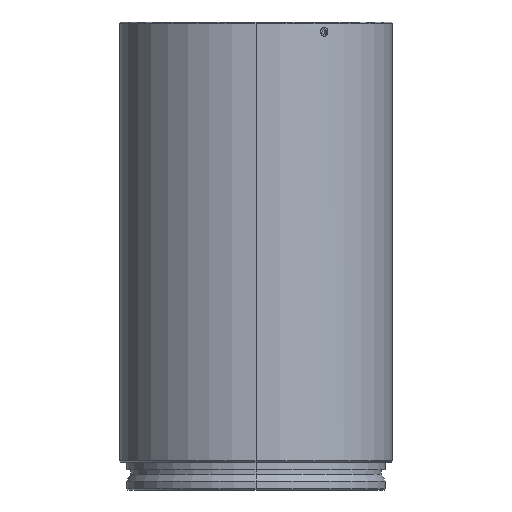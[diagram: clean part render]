
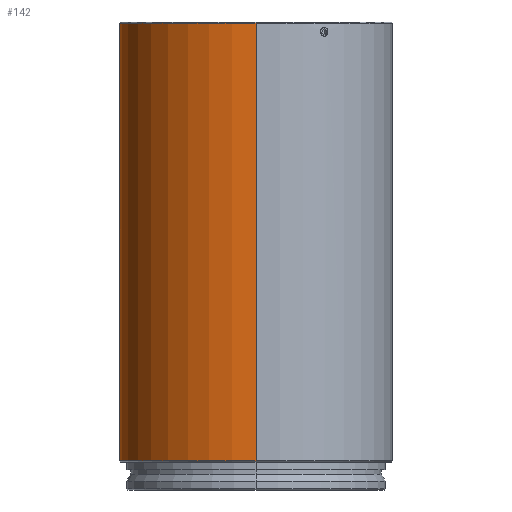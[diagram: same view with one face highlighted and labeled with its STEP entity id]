
A CAD part, left-side view. The second image highlights one B-rep face of the part: STEP entity #142.
In plain terms, the highlighted cylindrical face has radius 39 mm (diameter 78 mm), a partial arc.
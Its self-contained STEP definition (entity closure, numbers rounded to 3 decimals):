
#15 = CARTESIAN_POINT ( 'NONE',  ( 82.203, 123.256, 129.449 ) ) ;
#109 = CARTESIAN_POINT ( 'NONE',  ( 43.972, 84.263, 141.857 ) ) ;
#142 = ADVANCED_FACE ( 'NONE', ( #651, #883 ), #1323, .T. ) ;
#194 = CARTESIAN_POINT ( 'NONE',  ( 81.973, 123.251, 129.218 ) ) ;
#220 = CARTESIAN_POINT ( 'NONE',  ( 82.972, 123.263, 129.7 ) ) ;
#237 = EDGE_CURVE ( 'NONE', #2160, #407, #1378, .T. ) ;
#275 = CARTESIAN_POINT ( 'NONE',  ( 84.222, 123.243, 128.614 ) ) ;
#307 = EDGE_CURVE ( 'NONE', #1666, #1091, #2066, .T. ) ;
#373 = VECTOR ( 'NONE', #546, 1000. ) ;
#396 = CARTESIAN_POINT ( 'NONE',  ( 81.88, 123.248, 129.079 ) ) ;
#397 = ORIENTED_EDGE ( 'NONE', *, *, #790, .T. ) ;
#401 = B_SPLINE_CURVE_WITH_KNOTS ( 'NONE', 3,
 ( #1090, #1341, #872, #1728, #1928, #2330, #1299, #695, #2353, #275, #2158, #2342, #1914, #2539, #1514, #513, #1329, #1118, #2509, #1941 ),
 .UNSPECIFIED., .F., .F.,
 ( 4, 2, 2, 2, 2, 2, 2, 2, 2, 4 ),
 ( 0.004, 0.004, 0.005, 0.005, 0.006, 0.006, 0.007, 0.007, 0.007, 0.008 ),
 .UNSPECIFIED. ) ;
#402 = EDGE_LOOP ( 'NONE', ( #923, #1918, #2142, #476 ) ) ;
#407 = VERTEX_POINT ( 'NONE', #1020 ) ;
#408 = CARTESIAN_POINT ( 'NONE',  ( 82.205, 123.256, 127.45 ) ) ;
#414 = CARTESIAN_POINT ( 'NONE',  ( 82.972, 123.263, 127.2 ) ) ;
#423 = CARTESIAN_POINT ( 'NONE',  ( 81.755, 123.244, 128.778 ) ) ;
#469 = CARTESIAN_POINT ( 'NONE',  ( 43.972, 84.263, 5.824 ) ) ;
#476 = ORIENTED_EDGE ( 'NONE', *, *, #616, .F. ) ;
#513 = CARTESIAN_POINT ( 'NONE',  ( 83.741, 123.256, 129.449 ) ) ;
#546 = DIRECTION ( 'NONE',  ( 0., 0., 1. ) ) ;
#582 = CARTESIAN_POINT ( 'NONE',  ( 82.807, 123.263, 129.7 ) ) ;
#595 = CARTESIAN_POINT ( 'NONE',  ( 82.972, 123.263, 127.2 ) ) ;
#598 = CARTESIAN_POINT ( 'NONE',  ( 82.972, 84.263, 130.95 ) ) ;
#615 = CARTESIAN_POINT ( 'NONE',  ( 81.88, 123.248, 127.821 ) ) ;
#616 = EDGE_CURVE ( 'NONE', #877, #1023, #1978, .T. ) ;
#632 = CARTESIAN_POINT ( 'NONE',  ( 121.972, 84.263, 130.95 ) ) ;
#651 = FACE_BOUND ( 'NONE', #754, .T. ) ;
#695 = CARTESIAN_POINT ( 'NONE',  ( 84.189, 123.244, 128.122 ) ) ;
#753 = CARTESIAN_POINT ( 'NONE',  ( 121.972, 84.263, 5.824 ) ) ;
#754 = EDGE_LOOP ( 'NONE', ( #2572, #397 ) ) ;
#790 = EDGE_CURVE ( 'NONE', #1091, #1666, #401, .T. ) ;
#872 = CARTESIAN_POINT ( 'NONE',  ( 83.3, 123.262, 127.233 ) ) ;
#877 = VERTEX_POINT ( 'NONE', #753 ) ;
#883 = FACE_OUTER_BOUND ( 'NONE', #402, .T. ) ;
#916 = CARTESIAN_POINT ( 'NONE',  ( 121.972, 84.263, 141.857 ) ) ;
#923 = ORIENTED_EDGE ( 'NONE', *, *, #2506, .T. ) ;
#931 = AXIS2_PLACEMENT_3D ( 'NONE', #1870, #2140, #1511 ) ;
#1020 = CARTESIAN_POINT ( 'NONE',  ( 43.972, 84.263, 130.95 ) ) ;
#1023 = VERTEX_POINT ( 'NONE', #632 ) ;
#1075 = EDGE_CURVE ( 'NONE', #407, #1023, #2661, .T. ) ;
#1090 = CARTESIAN_POINT ( 'NONE',  ( 82.972, 123.263, 127.2 ) ) ;
#1091 = VERTEX_POINT ( 'NONE', #414 ) ;
#1118 = CARTESIAN_POINT ( 'NONE',  ( 83.301, 123.262, 129.667 ) ) ;
#1201 = CARTESIAN_POINT ( 'NONE',  ( 81.722, 123.243, 128.614 ) ) ;
#1299 = CARTESIAN_POINT ( 'NONE',  ( 84.064, 123.248, 127.819 ) ) ;
#1323 = CYLINDRICAL_SURFACE ( 'NONE', #931, 39. ) ;
#1329 = CARTESIAN_POINT ( 'NONE',  ( 83.602, 123.258, 129.542 ) ) ;
#1341 = CARTESIAN_POINT ( 'NONE',  ( 83.135, 123.263, 127.2 ) ) ;
#1346 = DIRECTION ( 'NONE',  ( 0., 0., 1. ) ) ;
#1378 = LINE ( 'NONE', #109, #373 ) ;
#1404 = CARTESIAN_POINT ( 'NONE',  ( 82.808, 123.263, 127.208 ) ) ;
#1422 = CARTESIAN_POINT ( 'NONE',  ( 82.342, 123.258, 127.358 ) ) ;
#1441 = CARTESIAN_POINT ( 'NONE',  ( 82.648, 123.262, 127.24 ) ) ;
#1488 = AXIS2_PLACEMENT_3D ( 'NONE', #598, #1818, #2648 ) ;
#1511 = DIRECTION ( 'NONE',  ( 1., 0., 0. ) ) ;
#1514 = CARTESIAN_POINT ( 'NONE',  ( 83.914, 123.252, 129.276 ) ) ;
#1585 = CIRCLE ( 'NONE', #2058, 39. ) ;
#1666 = VERTEX_POINT ( 'NONE', #2658 ) ;
#1678 = CARTESIAN_POINT ( 'NONE',  ( 82.972, 84.263, 5.824 ) ) ;
#1728 = CARTESIAN_POINT ( 'NONE',  ( 83.601, 123.258, 127.357 ) ) ;
#1818 = DIRECTION ( 'NONE',  ( 0., 0., -1. ) ) ;
#1826 = CARTESIAN_POINT ( 'NONE',  ( 82.891, 123.263, 127.2 ) ) ;
#1843 = CARTESIAN_POINT ( 'NONE',  ( 81.722, 123.243, 128.287 ) ) ;
#1870 = CARTESIAN_POINT ( 'NONE',  ( 82.972, 84.263, 141.857 ) ) ;
#1914 = CARTESIAN_POINT ( 'NONE',  ( 84.058, 123.248, 129.075 ) ) ;
#1918 = ORIENTED_EDGE ( 'NONE', *, *, #237, .T. ) ;
#1928 = CARTESIAN_POINT ( 'NONE',  ( 83.74, 123.256, 127.45 ) ) ;
#1941 = CARTESIAN_POINT ( 'NONE',  ( 82.972, 123.263, 129.7 ) ) ;
#1978 = LINE ( 'NONE', #916, #2476 ) ;
#2021 = CARTESIAN_POINT ( 'NONE',  ( 82.57, 123.261, 127.264 ) ) ;
#2058 = AXIS2_PLACEMENT_3D ( 'NONE', #1678, #2478, #2467 ) ;
#2066 = B_SPLINE_CURVE_WITH_KNOTS ( 'NONE', 3,
 ( #220, #582, #2455, #2425, #15, #194, #396, #423, #1201, #1843, #2227, #615, #2442, #408, #1422, #2021, #1441, #1404, #1826, #595 ),
 .UNSPECIFIED., .F., .F.,
 ( 4, 2, 2, 2, 2, 2, 2, 2, 2, 4 ),
 ( 0., 0., 0.001, 0.001, 0.002, 0.002, 0.003, 0.003, 0.004, 0.004 ),
 .UNSPECIFIED. ) ;
#2140 = DIRECTION ( 'NONE',  ( 0., 0., 1. ) ) ;
#2142 = ORIENTED_EDGE ( 'NONE', *, *, #1075, .T. ) ;
#2158 = CARTESIAN_POINT ( 'NONE',  ( 84.19, 123.244, 128.776 ) ) ;
#2160 = VERTEX_POINT ( 'NONE', #469 ) ;
#2227 = CARTESIAN_POINT ( 'NONE',  ( 81.755, 123.244, 128.124 ) ) ;
#2330 = CARTESIAN_POINT ( 'NONE',  ( 83.971, 123.251, 127.681 ) ) ;
#2342 = CARTESIAN_POINT ( 'NONE',  ( 84.096, 123.247, 129.004 ) ) ;
#2353 = CARTESIAN_POINT ( 'NONE',  ( 84.222, 123.243, 128.284 ) ) ;
#2425 = CARTESIAN_POINT ( 'NONE',  ( 82.342, 123.258, 129.542 ) ) ;
#2442 = CARTESIAN_POINT ( 'NONE',  ( 81.971, 123.25, 127.683 ) ) ;
#2455 = CARTESIAN_POINT ( 'NONE',  ( 82.645, 123.262, 129.668 ) ) ;
#2467 = DIRECTION ( 'NONE',  ( 1., 0., 0. ) ) ;
#2476 = VECTOR ( 'NONE', #1346, 1000. ) ;
#2478 = DIRECTION ( 'NONE',  ( 0., 0., 1. ) ) ;
#2506 = EDGE_CURVE ( 'NONE', #877, #2160, #1585, .T. ) ;
#2509 = CARTESIAN_POINT ( 'NONE',  ( 83.137, 123.263, 129.7 ) ) ;
#2539 = CARTESIAN_POINT ( 'NONE',  ( 83.967, 123.25, 129.211 ) ) ;
#2572 = ORIENTED_EDGE ( 'NONE', *, *, #307, .T. ) ;
#2648 = DIRECTION ( 'NONE',  ( -1., 0., 0. ) ) ;
#2658 = CARTESIAN_POINT ( 'NONE',  ( 82.972, 123.263, 129.7 ) ) ;
#2661 = CIRCLE ( 'NONE', #1488, 39. ) ;
